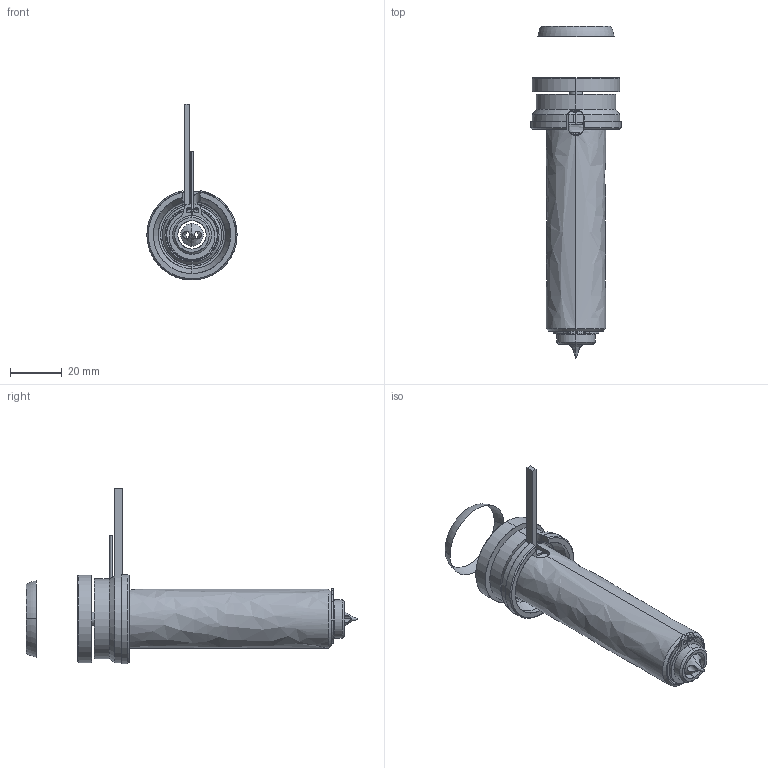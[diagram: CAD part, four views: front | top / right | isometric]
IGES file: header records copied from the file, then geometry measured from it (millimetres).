
Start section: SolidWorks IGES file using analytic representation for surfaces
Global section: file name: C:\Users\luca.EMPAD\Desktop\TEM\UGDL2602-M-A [Øf=0.3 ØC=5.0].IGS; native system: SolidWorks 2012; preprocessor: SolidWorks 2012; author: luca; date: 120330.144829; units: millimetre
Bounding box: 35 x 128.84 x 68.3 mm (x, y, z)
Surface area: 27062.7 mm2 (no closed solid volume)
Topology: 0 solids, 0 shells, 132 faces, 2132 edges, 2128 vertices
Faces by surface type: revolution 76, bspline 56
